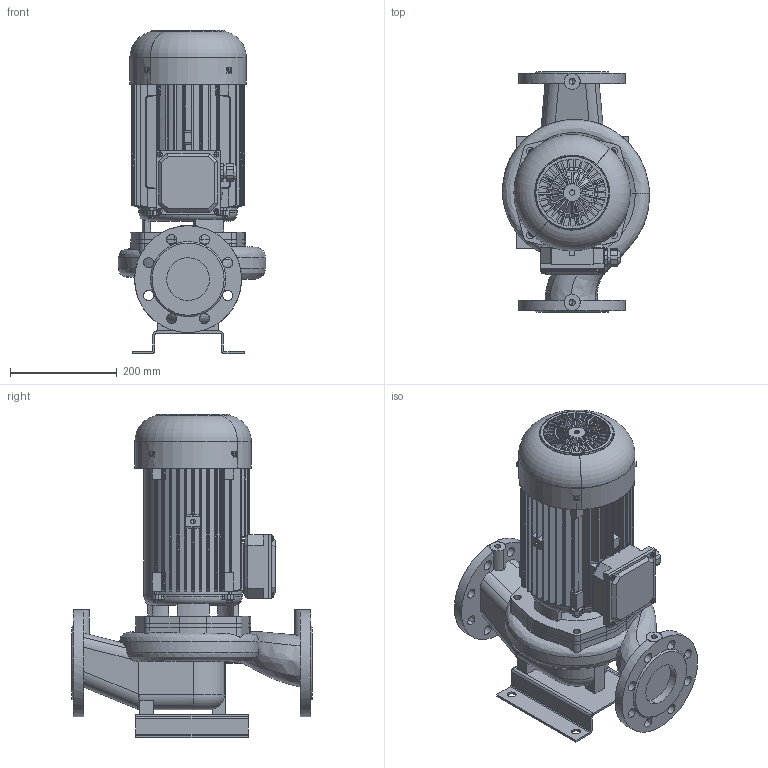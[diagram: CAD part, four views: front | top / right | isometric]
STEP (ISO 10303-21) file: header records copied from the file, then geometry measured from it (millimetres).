
FILE_DESCRIPTION(('STEP AP214'),'1');
FILE_NAME('export.stp','2018-05-28T12:14:21',(' '),(' '),'Spatial InterOp 3D',' ',' ');
FILE_SCHEMA(('AUTOMOTIVE_DESIGN { 1 0 10303 214 1 1 1 1 }'));
Length unit declared in the file: millimetre
Products named in the file (27): W_ALS10812400KP11; V_TLL65AB80A1102; V_PPAL1081; V_JALKA35973; 440017; 440016; V_MKP112F19; 440015___; 440018; 6205_D25_D52_B15_Rolling_bearing; 6305_D25_D62_B17_Rolling_bearing; DIN_471-25_Circlip_DIN_471_-_25_; DIN_472-62_Circlip_DIN_472_-_62_; 440019; 440021; 480022; 480020; DIN_471-24X1.2_Circlip_DIN_471_-; 480021; 480023; DIN_EN_ISO_7045-M5X12_DIN_EN_ISO; DIN_EN_ISO_7045-M5X8_DIN_EN_ISO_; DIN_EN_24017_-_M6_30_DIN_EN_2401; DIN_EN_ISO_7045-M5X6_DIN_EN_ISO_; M25_Blind_Plug; M25_tiivisteholkk; LJ_6205
Assembly tree (45 placements, depth 4):
  W_ALS10812400KP11
    V_TLL65AB80A1102
    V_PPAL1081
    V_JALKA35973
    V_MKP112F19
      440017
        440016
      440015___
      440018
      6205_D25_D52_B15_Rolling_bearing
      6305_D25_D62_B17_Rolling_bearing
      DIN_471-25_Circlip_DIN_471_-_25_
      DIN_472-62_Circlip_DIN_472_-_62_
      440019
      440021
      480022
      480020
      DIN_471-24X1.2_Circlip_DIN_471_-
      480021
      480023
      DIN_EN_ISO_7045-M5X12_DIN_EN_ISO  x10
      DIN_EN_ISO_7045-M5X8_DIN_EN_ISO_
      DIN_EN_24017_-_M6_30_DIN_EN_2401  x8
      DIN_EN_ISO_7045-M5X6_DIN_EN_ISO_  x4
      M25_Blind_Plug
      M25_tiivisteholkk
      LJ_6205
Bounding box: 275.44 x 450 x 606.2 mm (x, y, z)
Volume: 9585458 mm3; surface area: 1740997.9 mm2
Topology: 43 solids, 43 shells, 2997 faces, 8422 edges, 5376 vertices
Faces by surface type: plane 1129, cylinder 1081, torus 323, cone 284, bspline 107, sphere 73
Entity records: 98679 total; most frequent: CARTESIAN_POINT 31161, ORIENTED_EDGE 13836, DIRECTION 12737, EDGE_CURVE 6918, AXIS2_PLACEMENT_3D 4995, VERTEX_POINT 4562, EDGE_LOOP 2778, LINE 2747
